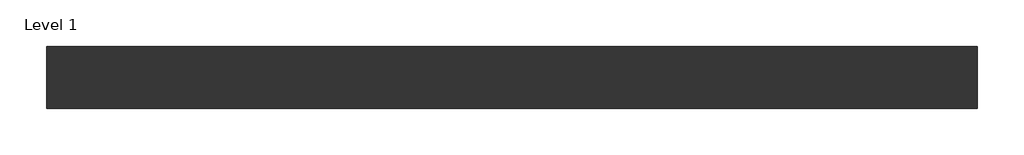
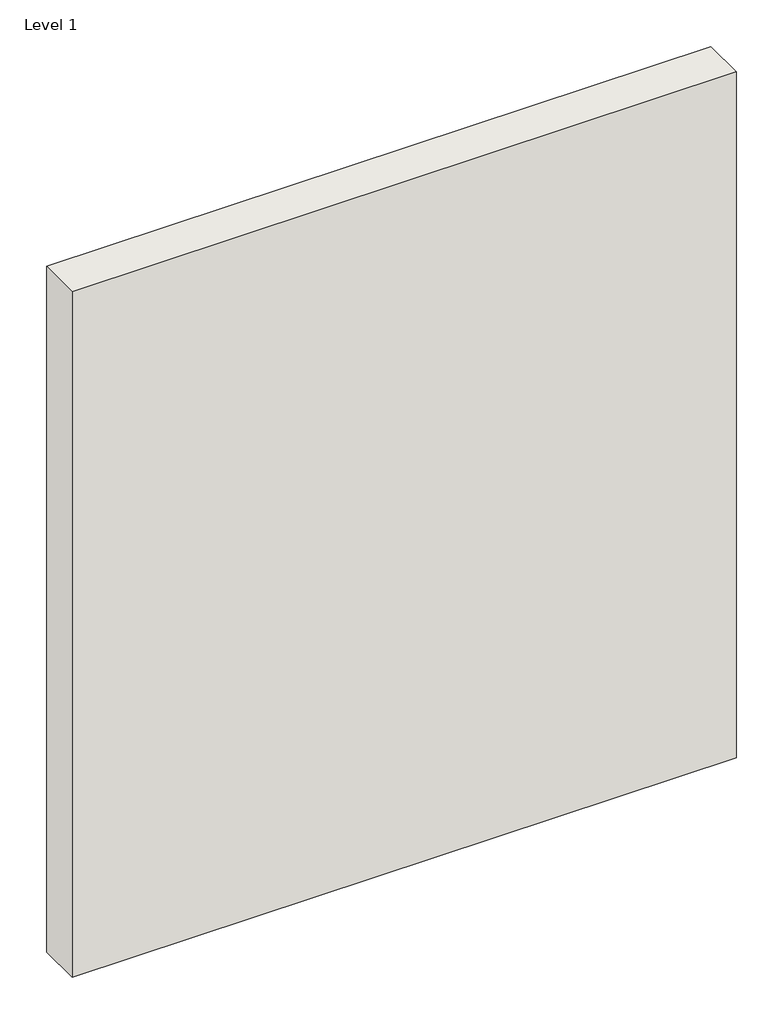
# One storey, incomplete: 1 wall.
"""IFC4 building model written with IfcOpenShell, lengths in millimetres."""

from ifc_helpers import new_model, si_unit, origin, origin_with_axes, place, context, project, spatial, polyline, outline, extrude, element, save

model = new_model("IFC4")

# Units and contexts
model_context = context("Model", 3, world=origin())
ifc_project = project(units=[si_unit("LENGTHUNIT", "METRE", prefix="MILLI")], contexts=[model_context])

# Site, building, storey
site = spatial("IfcSite", under=ifc_project)
building = spatial("IfcBuilding", under=site)
storey = spatial("IfcBuildingStorey", under=building, Name="Level 1", Elevation=0.0)

# Wall
placement = place(None, origin())
element("IfcWall", 1, ObjectType="Exterior - 6\" Generic", at=placement, inside=storey, context=model_context, shape_type="SweptSolid", body=[
    extrude(outline(polyline([(4119.1973575, 1963.1766815), (1833.1973575, 1963.1766815), (1833.1973575, 2115.5766815), (4119.1973575, 2115.5766815), (4119.1973575, 1963.1766815)])), origin_with_axes(), (0.0, 0.0, 1.0), 2495.55),
])

save(model, "model.ifc")
